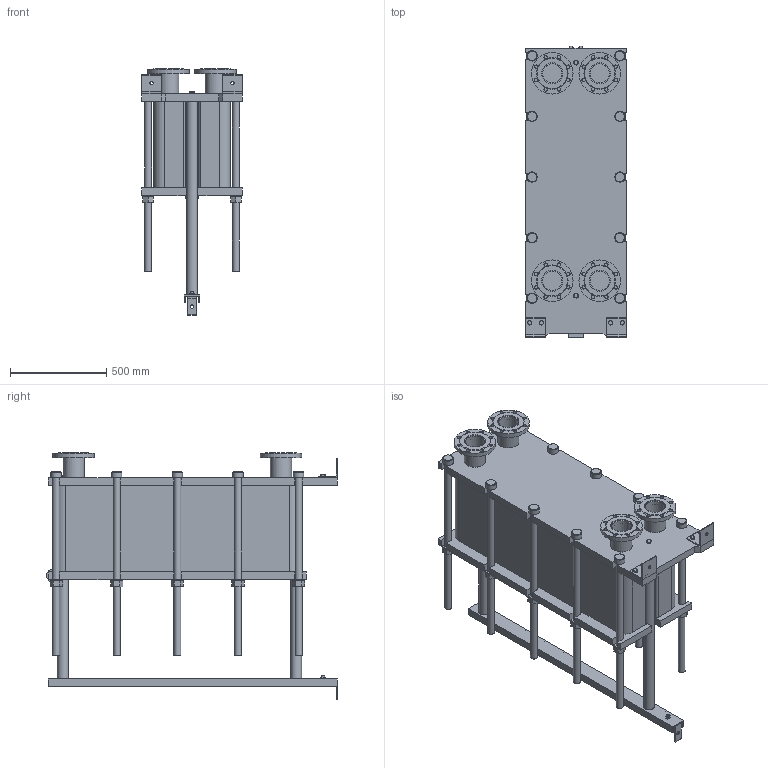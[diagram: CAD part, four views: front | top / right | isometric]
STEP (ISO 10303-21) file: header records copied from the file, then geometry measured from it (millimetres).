
FILE_DESCRIPTION(/* description */ (''),/* implementation_level */ '2;1');
FILE_NAME(/* name */ 'C:\Users\zhuro\Desktop\ENCO\TO\ЭН-04\ЭН-0,5-04-130-1.stp',/* time_stamp */ '2022-06-06T10:57:03+03:00',/* author */ ('zhuro'),/* organization */ (''),/* preprocessor_version */ 'ST-DEVELOPER v18.1',/* originating_system */ 'Autodesk Inventor 2022',/* authorisation */ '');
FILE_SCHEMA (('AUTOMOTIVE_DESIGN { 1 0 10303 214 3 1 1 }'));
Length unit declared in the file: millimetre
Products named in the file (1): ЭН-0,5-04-130-1
Bounding box: 520 x 1510 x 1280 mm (x, y, z)
Volume: 296961393.2 mm3; surface area: 9014964.8 mm2
Topology: 45 solids, 45 shells, 668 faces, 1611 edges, 1048 vertices
Faces by surface type: plane 457, cylinder 166, cone 39, torus 6
Full cylindrical faces by diameter (mm): 8 x4, 10 x2, 16 x8, 18 x35, 36 x25, 40 x2, 42 x1, 45 x4, 54 x10, 57 x2, 60 x10, 68 x2, 100 x4, 110 x8, 215 x4
Entity records: 23607 total; most frequent: CARTESIAN_POINT 7348, DIRECTION 3371, ORIENTED_EDGE 3142, EDGE_CURVE 1571, AXIS2_PLACEMENT_3D 1199, VERTEX_POINT 1044, LINE 973, VECTOR 973
